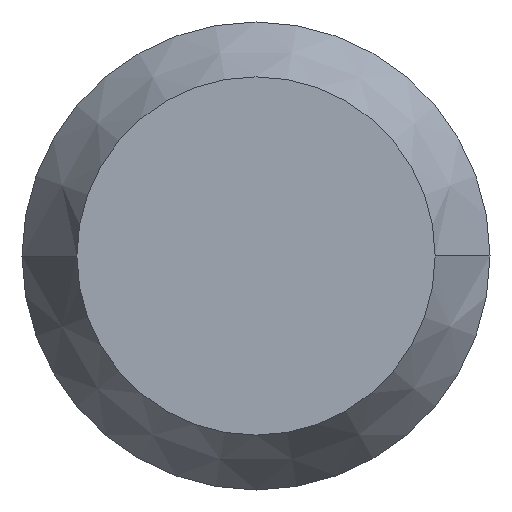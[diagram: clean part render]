
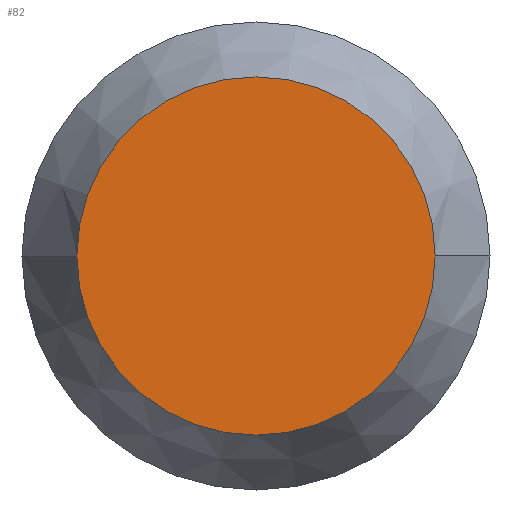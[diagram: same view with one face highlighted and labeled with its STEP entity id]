
A CAD part, left-side view. The second image highlights one B-rep face of the part: STEP entity #82.
In plain terms, the highlighted planar face has unit normal (-1, 0, 0).
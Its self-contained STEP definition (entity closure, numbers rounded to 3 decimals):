
#82 = ADVANCED_FACE( '', ( #98 ), #99, .T. );
#98 = FACE_OUTER_BOUND( '', #114, .T. );
#99 = PLANE( '', #115 );
#114 = EDGE_LOOP( '', ( #163, #164 ) );
#115 = AXIS2_PLACEMENT_3D( '', #165, #166, #167 );
#163 = ORIENTED_EDGE( '', *, *, #171, .T. );
#164 = ORIENTED_EDGE( '', *, *, #181, .T. );
#165 = CARTESIAN_POINT( '', ( -25., 4., 0. ) );
#166 = DIRECTION( '', ( -1., 0., 0. ) );
#167 = DIRECTION( '', ( 0., 1., 0. ) );
#171 = EDGE_CURVE( '', #183, #187, #189, .T. );
#181 = EDGE_CURVE( '', #187, #183, #203, .T. );
#183 = VERTEX_POINT( '', #205 );
#187 = VERTEX_POINT( '', #210 );
#189 = CIRCLE( '', #213, 8. );
#203 = CIRCLE( '', #231, 8. );
#205 = CARTESIAN_POINT( '', ( -25., 8., 0. ) );
#210 = CARTESIAN_POINT( '', ( -25., -8., 0. ) );
#213 = AXIS2_PLACEMENT_3D( '', #237, #238, #239 );
#231 = AXIS2_PLACEMENT_3D( '', #259, #260, #261 );
#237 = CARTESIAN_POINT( '', ( -25., 0., 0. ) );
#238 = DIRECTION( '', ( -1., 0., 0. ) );
#239 = DIRECTION( '', ( 0., 1., 0. ) );
#259 = CARTESIAN_POINT( '', ( -25., 0., 0. ) );
#260 = DIRECTION( '', ( -1., 0., 0. ) );
#261 = DIRECTION( '', ( 0., 1., 0. ) );
